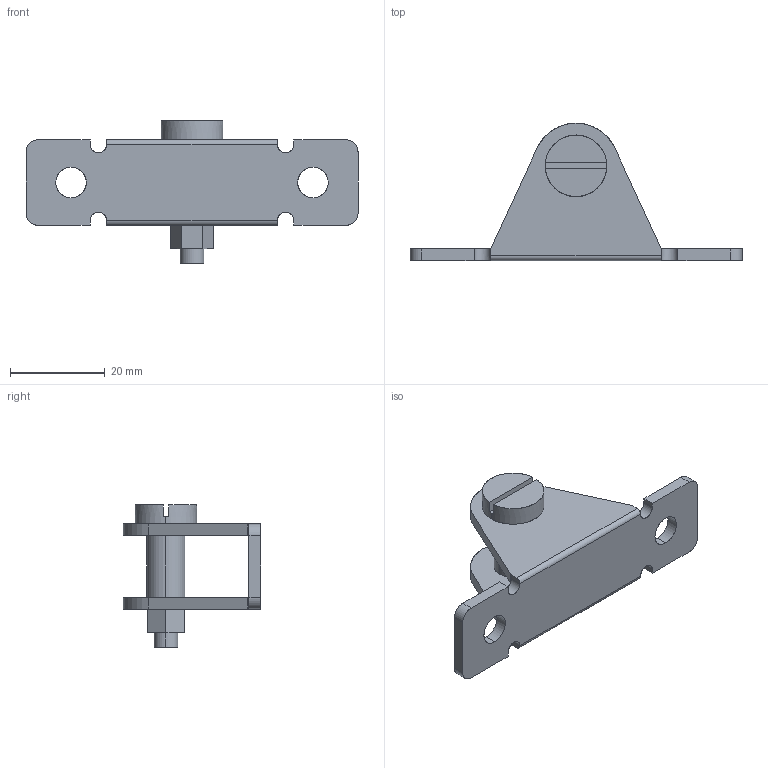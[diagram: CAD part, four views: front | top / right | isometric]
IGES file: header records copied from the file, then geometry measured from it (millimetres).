
Start section: SolidWorks IGES file using analytic representation for surfaces
Bounding box: 70 x 29 x 30 mm (x, y, z)
Surface area: 6112.6 mm2 (no closed solid volume)
Topology: 0 solids, 0 shells, 65 faces, 928 edges, 928 vertices
Faces by surface type: bspline 37, revolution 28
